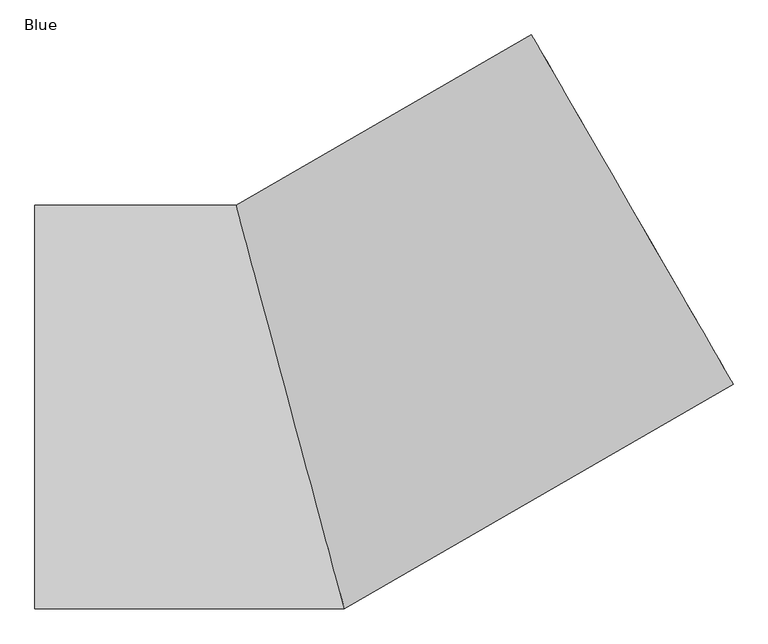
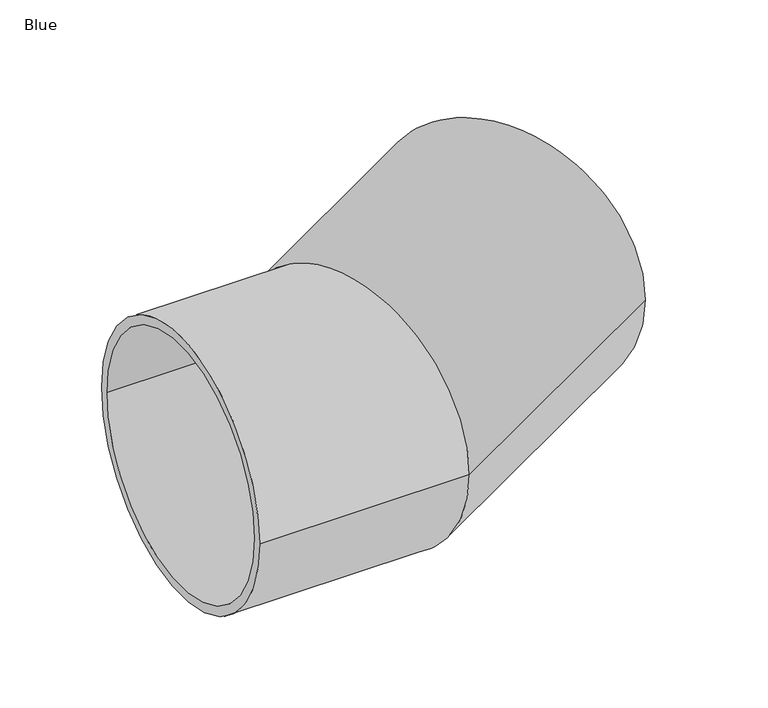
"""IFC4 building model written with IfcOpenShell, lengths in millimetres: pipe fitting geometry, AWADUKT PP SN10 SBend : Blue."""

from ifc_helpers import new_model, si_unit, frame, origin, place, context, project, spatial, polyline, circle_curve, ellipse_curve, source, transform, mapped, element, save
from ifc_brep_helpers import plane_surface, cylinder_surface, revolved_surface, advanced_brep


def blue_0a20ea5d(model_context):
    return source(origin(), model_context, "Body", "AdvancedBrep", [
        advanced_brep(
        [(376.8376741, 581.2980022, 0.0), (691.8376741, 35.7019978, 0.0), (387.6376741, 562.5918535, 0.0), (681.0376741, 54.4081465, 0.0), (-78.6162931, 293.4, 0.0), (78.6162931, -293.4, 0.0), (-84.4039956, 315.0, 0.0), (84.4039956, -315.0, 0.0), (-399.0, 315.0, 0.0), (-399.0, -315.0, 0.0), (-399.0, 293.4, 0.0), (-399.0, -293.4, 0.0)],
        [
            (0, 1, circle_curve(frame((534.3376741, 308.5, 0.0), z_axis=(0.866025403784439, 0.49999999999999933, 0.0), x_axis=(0.49999999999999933, -0.866025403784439, 0.0)), 315.0)),
            (1, 0, circle_curve(frame((534.3376741, 308.5, 0.0), z_axis=(0.866025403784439, 0.49999999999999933, 0.0), x_axis=(0.49999999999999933, -0.866025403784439, 0.0)), 315.0)),
            (2, 3, circle_curve(frame((534.3376741, 308.5, 0.0), z_axis=(-0.866025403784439, -0.49999999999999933, 0.0), x_axis=(0.49999999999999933, -0.866025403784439, 0.0)), 293.4)),
            (3, 2, circle_curve(frame((534.3376741, 308.5, 0.0), z_axis=(-0.866025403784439, -0.49999999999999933, 0.0), x_axis=(0.49999999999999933, -0.866025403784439, 0.0)), 293.4)),
            (2, 4),
            (4, 5, ellipse_curve(frame((0.0, 0.0, 0.0), z_axis=(-0.9659258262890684, -0.2588190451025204, 0.0), x_axis=(0.2588190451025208, -0.9659258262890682, 0.0)), 303.7500313, 293.4)),
            (5, 3),
            (5, 4, ellipse_curve(frame((0.0, 0.0, 0.0), z_axis=(-0.9659258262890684, -0.2588190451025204, 0.0), x_axis=(0.2588190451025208, -0.9659258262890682, 0.0)), 303.7500313, 293.4)),
            (0, 6),
            (6, 7, ellipse_curve(frame((0.0, 0.0, 0.0), z_axis=(0.9659258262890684, 0.2588190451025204, 0.0), x_axis=(-0.2588190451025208, 0.9659258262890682, 0.0)), 326.1119968, 315.0)),
            (7, 1),
            (7, 6, ellipse_curve(frame((0.0, 0.0, 0.0), z_axis=(0.9659258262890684, 0.2588190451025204, 0.0), x_axis=(-0.2588190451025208, 0.9659258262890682, 0.0)), 326.1119968, 315.0)),
            (8, 9, circle_curve(frame((-399.0, 0.0, 0.0), z_axis=(-1.0, 0.0, 0.0), x_axis=(0.0, -1.0, 0.0)), 315.0)),
            (9, 8, circle_curve(frame((-399.0, 0.0, 0.0), z_axis=(-1.0, 0.0, 0.0), x_axis=(0.0, -1.0, 0.0)), 315.0)),
            (10, 11, circle_curve(frame((-399.0, 0.0, 0.0), z_axis=(1.0, 0.0, 0.0), x_axis=(0.0, -1.0, 0.0)), 293.4)),
            (11, 10, circle_curve(frame((-399.0, 0.0, 0.0), z_axis=(1.0, 0.0, 0.0), x_axis=(0.0, -1.0, 0.0)), 293.4)),
            (4, 10),
            (11, 5),
            (6, 8),
            (9, 7),
        ],
        [
            plane_surface(frame((534.3376741, 308.5, 0.0), z_axis=(0.866025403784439, 0.49999999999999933, 0.0), x_axis=(0.0, 0.0, 1.0))),
            revolved_surface(polyline([(78.61629305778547, -293.39999998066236, 0.0), (681.0376741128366, 54.40814653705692, 0.0)]), (534.3376741, 308.5, 0.0), (-0.866025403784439, -0.49999999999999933, 0.0)),
            cylinder_surface(frame((534.3376741, 308.5, 0.0), z_axis=(0.866025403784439, 0.49999999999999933, 0.0), x_axis=(0.49999999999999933, -0.866025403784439, 0.0)), 315.0),
            plane_surface(frame((-399.0, 0.0, 0.0), z_axis=(-1.0, 0.0, 0.0), x_axis=(0.0, 0.0, 1.0))),
            revolved_surface(polyline([(-399.0, -293.4, 0.0), (78.6162931, -293.4, 0.0)]), (0.0, 0.0, 0.0), (-1.0, 0.0, 0.0)),
            cylinder_surface(frame((0.0, 0.0, 0.0), z_axis=(1.0, 0.0, 0.0), x_axis=(0.0, -1.0, 0.0)), 315.0),
        ],
        [
            (0, [[1, 2], [3, 4]]),
            (1, [[-3, 5, 6, 7]]),
            (1, [[-4, -7, 8, -5]]),
            (2, [[-1, 9, 10, 11]]),
            (2, [[-2, -11, 12, -9]]),
            (3, [[13, 14], [15, 16]]),
            (4, [[-6, 17, -16, 18]]),
            (4, [[-8, -18, -15, -17]]),
            (5, [[-10, 19, -14, 20]]),
            (5, [[-12, -20, -13, -19]]),
        ],
    ),
    ])


if __name__ == "__main__":
    model = new_model("IFC4")
    model_context = context("Model", 3, world=origin())
    ifc_project = project(units=[si_unit("LENGTHUNIT", "METRE", prefix="MILLI")], contexts=[model_context])
    site = spatial("IfcSite", under=ifc_project)
    building = spatial("IfcBuilding", under=site)
    placement = place(None, origin())
    blue_shape = blue_0a20ea5d(model_context)
    element("IfcPipeFitting", 1, ObjectType="AWADUKT PP SN10 SBend : Blue", at=placement, inside=building, context=model_context, shape_type="MappedRepresentation", body=[
        mapped(blue_shape, transform((0.0, 0.0, 0.0), x_axis=(1.0, 0.0, 0.0), y_axis=(0.0, 1.0, 0.0), z_axis=(0.0, 0.0, 1.0))),
    ])
    save(model, "model.ifc")
